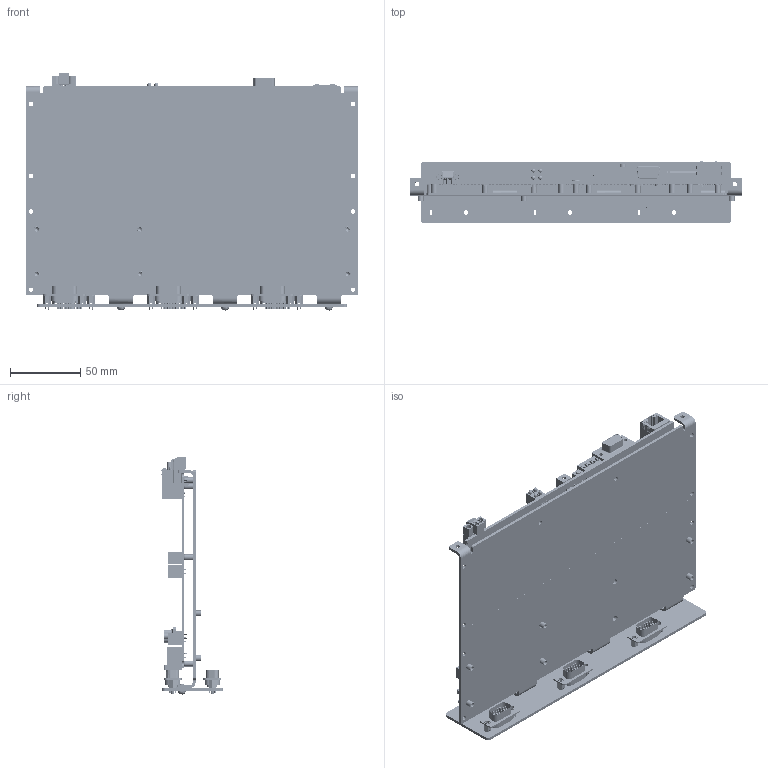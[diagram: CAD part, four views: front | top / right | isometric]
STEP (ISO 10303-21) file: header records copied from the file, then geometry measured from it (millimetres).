
FILE_DESCRIPTION((''),'2;1');
FILE_NAME('CD_SBRIO_9692','2009-10-07T',('tbeno'),(''),'PRO/ENGINEER BY PARAMETRIC TECHNOLOGY CORPORATION, 2006300','PRO/ENGINEER BY PARAMETRIC TECHNOLOGY CORPORATION, 2006300','');
FILE_SCHEMA(('CONFIG_CONTROL_DESIGN'));
Products named in the file (1): CD_SBRIO_9692
Bounding box: 236.22 x 44.4 x 168.66 mm (x, y, z)
Volume: 211690.2 mm3; surface area: 207571 mm2
Topology: 103 solids, 103 shells, 7287 faces, 17714 edges, 11612 vertices
Faces by surface type: plane 5268, cylinder 1749, cone 138, torus 84, bspline 24, sphere 24
Entity records: 220141 total; most frequent: CARTESIAN_POINT 45158, DIRECTION 35744, ORIENTED_EDGE 35316, EDGE_CURVE 17658, VECTOR 13410, LINE 13410, VERTEX_POINT 11688, AXIS2_PLACEMENT_3D 11167
